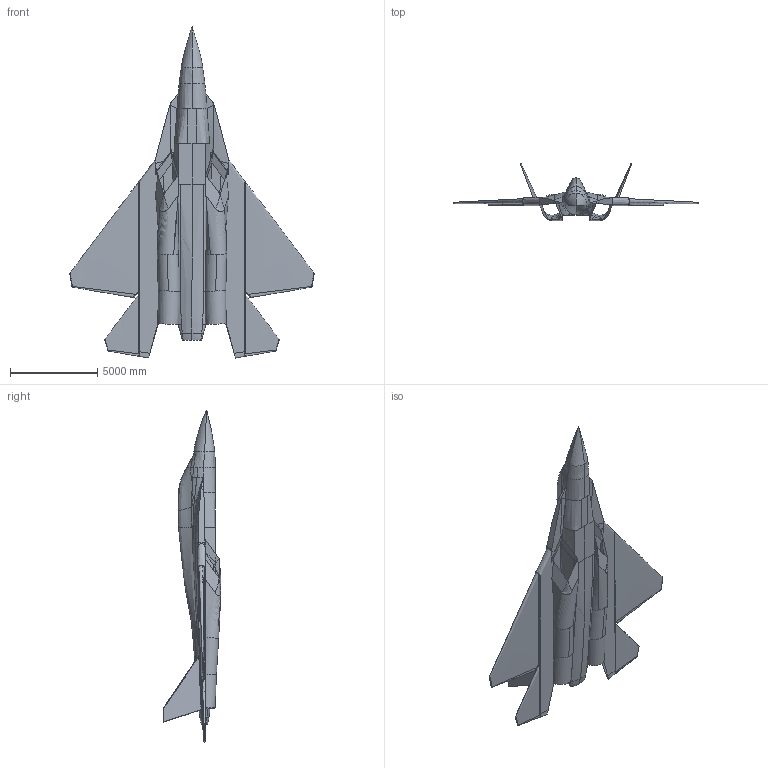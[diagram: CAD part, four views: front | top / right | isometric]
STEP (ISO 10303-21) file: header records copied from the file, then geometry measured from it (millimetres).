
FILE_DESCRIPTION (( 'STEP AP203' ), '1' );
FILE_NAME ('Part1 - Copy (2).STEP', '2025-12-19T11:55:02', ( '' ), ( '' ), 'SwSTEP 2.0', 'SolidWorks 2024', '' );
FILE_SCHEMA (( 'CONFIG_CONTROL_DESIGN' ));
Length unit declared in the file: metre
Products named in the file (1): Part1 - Copy (2)
Bounding box: 13995.56 x 3312.37 x 18998.65 mm (x, y, z)
Surface area: 309141200.7 mm2 (no closed solid volume)
Topology: 0 solids, 4 shells, 229 faces, 791 edges, 527 vertices
Faces by surface type: bspline 190, plane 29, cylinder 6, torus 4
Entity records: 154061 total; most frequent: CARTESIAN_POINT 149283, ORIENTED_EDGE 1352, EDGE_CURVE 759, B_SPLINE_CURVE_WITH_KNOTS 636, VERTEX_POINT 527, DIRECTION 264, EDGE_LOOP 231, ADVANCED_FACE 229
